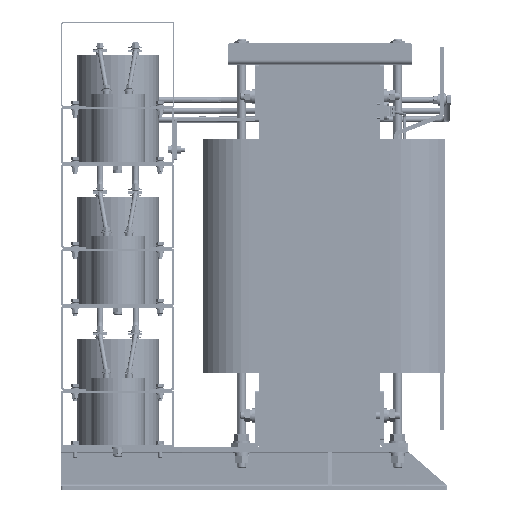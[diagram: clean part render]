
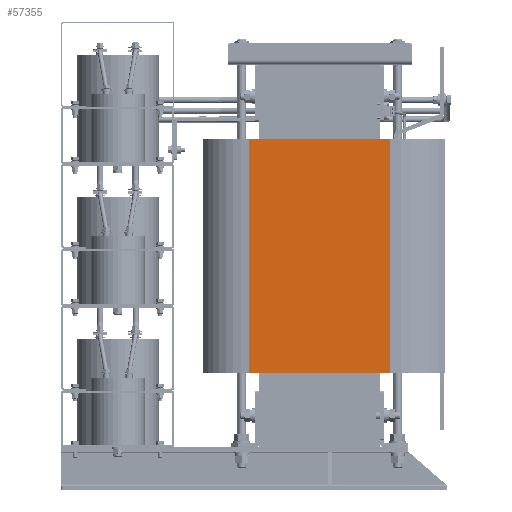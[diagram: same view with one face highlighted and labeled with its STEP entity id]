
A CAD part, left-side view. The second image highlights one B-rep face of the part: STEP entity #57355.
In plain terms, the highlighted planar face has unit normal (-1, 0, 0).
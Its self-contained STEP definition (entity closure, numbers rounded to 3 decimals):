
#57355=ADVANCED_FACE('',(#130952),#130954,.T.);
#130952=FACE_BOUND('',#130953,.T.);
#130953=EDGE_LOOP('',(#174353,#174354,#174355,#174356));
#130954=PLANE('',#130955);
#130955=AXIS2_PLACEMENT_3D('',#130956,#130957,#130958);
#130956=CARTESIAN_POINT('',(-292.5,25.437,105.));
#130957=DIRECTION('',(-1.,0.,0.));
#130958=DIRECTION('',(0.,0.,1.));
#174353=ORIENTED_EDGE('',*,*,#196645,.T.);
#174354=ORIENTED_EDGE('',*,*,#196655,.T.);
#174355=ORIENTED_EDGE('',*,*,#196634,.F.);
#174356=ORIENTED_EDGE('',*,*,#196656,.T.);
#196634=EDGE_CURVE('',#222430,#222432,#222433,.T.);
#196645=EDGE_CURVE('',#222451,#222448,#222452,.T.);
#196655=EDGE_CURVE('',#222448,#222432,#222467,.T.);
#196656=EDGE_CURVE('',#222430,#222451,#222468,.T.);
#222430=VERTEX_POINT('',#339379);
#222432=VERTEX_POINT('',#339384);
#222433=LINE('',#339385,#339386);
#222448=VERTEX_POINT('',#339423);
#222451=VERTEX_POINT('',#339429);
#222452=LINE('',#339430,#339431);
#222467=LINE('',#339468,#339469);
#222468=LINE('',#339471,#339472);
#339379=CARTESIAN_POINT('',(-292.5,224.843,435.));
#339384=CARTESIAN_POINT('',(-292.5,25.437,435.));
#339385=CARTESIAN_POINT('',(-292.5,224.843,435.));
#339386=VECTOR('',#339387,1.);
#339387=DIRECTION('',(0.,-1.,0.));
#339423=CARTESIAN_POINT('',(-292.5,25.437,105.));
#339429=CARTESIAN_POINT('',(-292.5,224.843,105.));
#339430=CARTESIAN_POINT('',(-292.5,224.843,105.));
#339431=VECTOR('',#339432,1.);
#339432=DIRECTION('',(0.,-1.,0.));
#339468=CARTESIAN_POINT('',(-292.5,25.437,105.));
#339469=VECTOR('',#339470,1.);
#339470=DIRECTION('',(0.,0.,1.));
#339471=CARTESIAN_POINT('',(-292.5,224.843,435.));
#339472=VECTOR('',#339473,1.);
#339473=DIRECTION('',(0.,0.,-1.));
